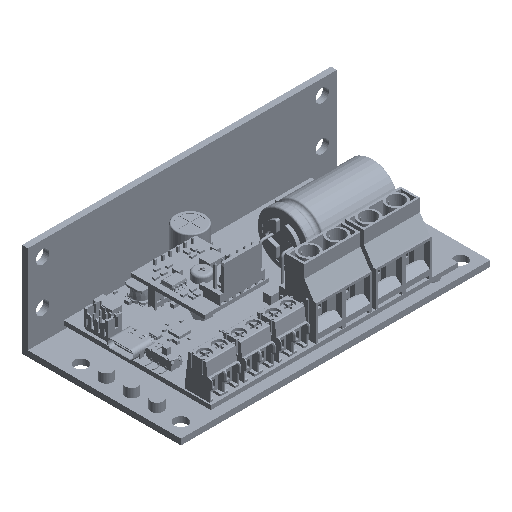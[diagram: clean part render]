
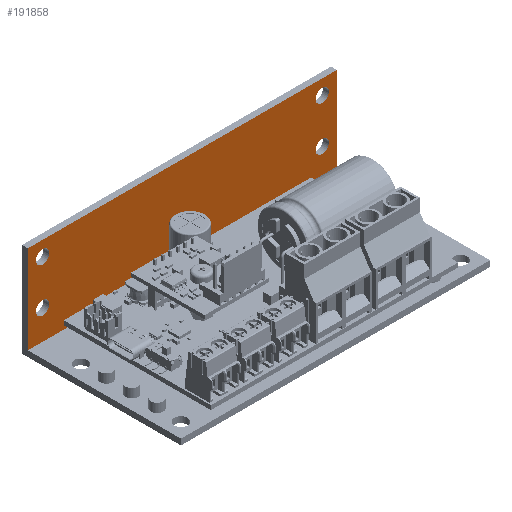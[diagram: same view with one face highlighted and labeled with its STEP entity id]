
A CAD part, isometric view. The second image highlights one B-rep face of the part: STEP entity #191858.
In plain terms, the highlighted planar face has unit normal (0, -1, 0).
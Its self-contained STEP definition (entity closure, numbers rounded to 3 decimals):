
#3258=FACE_BOUND('',#31815,.T.);
#3259=FACE_BOUND('',#31816,.T.);
#3260=FACE_BOUND('',#31817,.T.);
#3261=FACE_BOUND('',#31818,.T.);
#5807=CIRCLE('',#203700,2.25);
#5808=CIRCLE('',#203702,2.25);
#5809=CIRCLE('',#203704,2.25);
#5810=CIRCLE('',#203706,2.25);
#20955=FACE_OUTER_BOUND('',#31814,.T.);
#31814=EDGE_LOOP('',(#163347,#163348,#163349,#163350));
#31815=EDGE_LOOP('',(#163351));
#31816=EDGE_LOOP('',(#163352));
#31817=EDGE_LOOP('',(#163353));
#31818=EDGE_LOOP('',(#163354));
#50610=LINE('',#330845,#71401);
#50614=LINE('',#330854,#71405);
#50622=LINE('',#330876,#71413);
#50631=LINE('',#330909,#71422);
#71401=VECTOR('',#241082,1.);
#71405=VECTOR('',#241088,1.);
#71413=VECTOR('',#241108,1.);
#71422=VECTOR('',#241145,1.);
#90165=VERTEX_POINT('',#330842);
#90166=VERTEX_POINT('',#330844);
#90169=VERTEX_POINT('',#330852);
#90170=VERTEX_POINT('',#330853);
#90179=VERTEX_POINT('',#330878);
#90180=VERTEX_POINT('',#330882);
#90181=VERTEX_POINT('',#330886);
#90182=VERTEX_POINT('',#330890);
#115475=EDGE_CURVE('',#90165,#90166,#50610,.T.);
#115479=EDGE_CURVE('',#90169,#90170,#50614,.T.);
#115491=EDGE_CURVE('',#90165,#90169,#50622,.T.);
#115493=EDGE_CURVE('',#90179,#90179,#5807,.T.);
#115495=EDGE_CURVE('',#90180,#90180,#5808,.T.);
#115496=EDGE_CURVE('',#90181,#90181,#5809,.T.);
#115498=EDGE_CURVE('',#90182,#90182,#5810,.T.);
#115508=EDGE_CURVE('',#90170,#90166,#50631,.T.);
#163347=ORIENTED_EDGE('',*,*,#115475,.F.);
#163348=ORIENTED_EDGE('',*,*,#115491,.T.);
#163349=ORIENTED_EDGE('',*,*,#115479,.T.);
#163350=ORIENTED_EDGE('',*,*,#115508,.T.);
#163351=ORIENTED_EDGE('',*,*,#115493,.T.);
#163352=ORIENTED_EDGE('',*,*,#115495,.T.);
#163353=ORIENTED_EDGE('',*,*,#115496,.T.);
#163354=ORIENTED_EDGE('',*,*,#115498,.T.);
#182811=PLANE('',#203712);
#191858=ADVANCED_FACE('',(#20955,#3258,#3259,#3260,#3261),#182811,.T.);
#203700=AXIS2_PLACEMENT_3D('',#330880,#241112,#241113);
#203702=AXIS2_PLACEMENT_3D('',#330884,#241117,#241118);
#203704=AXIS2_PLACEMENT_3D('',#330887,#241121,#241122);
#203706=AXIS2_PLACEMENT_3D('',#330891,#241126,#241127);
#203712=AXIS2_PLACEMENT_3D('',#330908,#241143,#241144);
#241082=DIRECTION('',(0.,0.,-1.));
#241088=DIRECTION('',(0.,0.,-1.));
#241108=DIRECTION('',(-1.,0.,0.));
#241112=DIRECTION('center_axis',(0.,1.,0.));
#241113=DIRECTION('ref_axis',(0.,0.,-1.));
#241117=DIRECTION('center_axis',(0.,1.,0.));
#241118=DIRECTION('ref_axis',(0.,0.,-1.));
#241121=DIRECTION('center_axis',(0.,1.,0.));
#241122=DIRECTION('ref_axis',(0.,0.,-1.));
#241126=DIRECTION('center_axis',(0.,1.,0.));
#241127=DIRECTION('ref_axis',(0.,0.,-1.));
#241143=DIRECTION('center_axis',(0.,-1.,0.));
#241144=DIRECTION('ref_axis',(0.,0.,-1.));
#241145=DIRECTION('',(1.,0.,0.));
#330842=CARTESIAN_POINT('',(94.6,51.775,25.47));
#330844=CARTESIAN_POINT('',(94.6,51.775,-4.53));
#330845=CARTESIAN_POINT('',(94.6,51.775,9.47));
#330852=CARTESIAN_POINT('',(-10.4,51.775,25.47));
#330853=CARTESIAN_POINT('',(-10.4,51.775,-4.53));
#330854=CARTESIAN_POINT('',(-10.4,51.775,9.47));
#330876=CARTESIAN_POINT('',(42.1,51.775,25.47));
#330878=CARTESIAN_POINT('',(-5.401,51.775,7.72));
#330880=CARTESIAN_POINT('Origin',(-5.401,51.775,5.47));
#330882=CARTESIAN_POINT('',(-5.401,51.775,22.72));
#330884=CARTESIAN_POINT('Origin',(-5.401,51.775,20.47));
#330886=CARTESIAN_POINT('',(89.599,51.775,22.72));
#330887=CARTESIAN_POINT('Origin',(89.599,51.775,20.47));
#330890=CARTESIAN_POINT('',(89.599,51.775,7.72));
#330891=CARTESIAN_POINT('Origin',(89.599,51.775,5.47));
#330908=CARTESIAN_POINT('Origin',(42.1,51.775,9.47));
#330909=CARTESIAN_POINT('',(42.1,51.775,-4.53));
